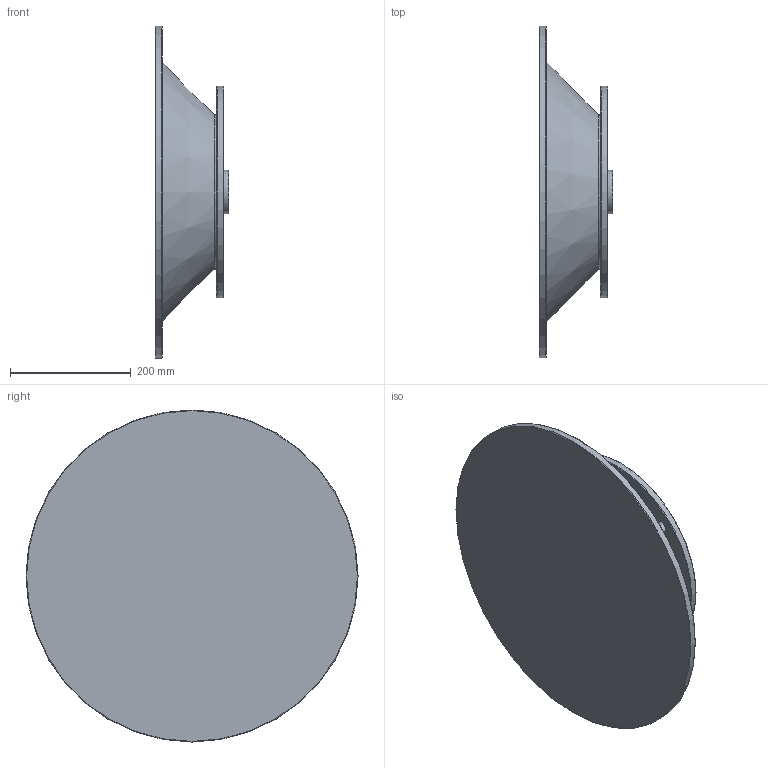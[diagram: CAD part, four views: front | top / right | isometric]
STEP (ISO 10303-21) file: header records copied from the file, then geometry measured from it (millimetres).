
FILE_DESCRIPTION((''),'2;1');
FILE_NAME('D:\PAWEŁ\ZLECENIA\2011 DualSystem\Przekładnie DR\DR160\STEP\160_B5_L113,5.stp','2012-06-11T13:06:23',('admin'),(''),'Autodesk Inventor 2009','Autodesk Inventor 2009','');
FILE_SCHEMA(('AUTOMOTIVE_DESIGN { 1 0 10303 214 1 1 1 1 }'));
Length unit declared in the file: millimetre
Products named in the file (1): 160_B5_L113,5
Bounding box: 122 x 550 x 550 mm (x, y, z)
Volume: 4545724.1 mm3; surface area: 906956.2 mm2
Topology: 1 solids, 1 shells, 30 faces, 58 edges, 36 vertices
Faces by surface type: plane 11, cylinder 6, bspline 6, torus 5, cone 2
Full cylindrical faces by diameter (mm): 72 x1, 232.982 x1, 250 x1, 350 x1, 550 x1
Entity records: 895 total; most frequent: CARTESIAN_POINT 281, DIRECTION 120, ORIENTED_EDGE 80, EDGE_LOOP 62, AXIS2_PLACEMENT_3D 55, EDGE_CURVE 40, VERTEX_POINT 36, FACE_BOUND 32
